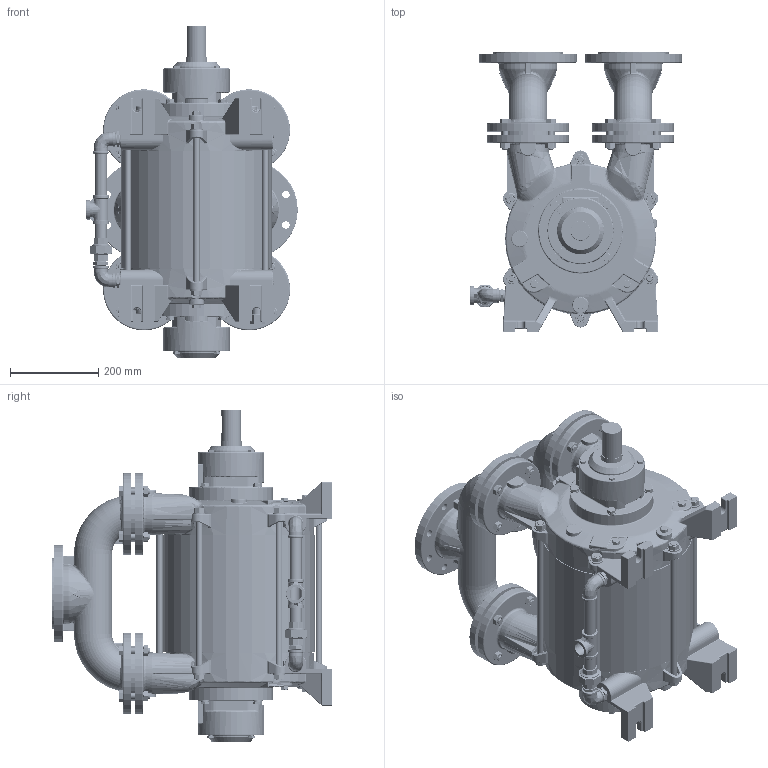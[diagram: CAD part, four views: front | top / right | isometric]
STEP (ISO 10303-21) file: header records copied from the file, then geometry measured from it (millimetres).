
FILE_DESCRIPTION (( 'STEP AP214' ), '1' );
FILE_NAME ('GMVT 275-260 MONTAJ.STEP', '2024-05-09T06:31:28', ( '' ), ( '' ), 'SwSTEP 2.0', 'SolidWorks 2024', '' );
FILE_SCHEMA (( 'AUTOMOTIVE_DESIGN' ));
Length unit declared in the file: millimetre
Products named in the file (1): GMVT 275-260 MONTAJ
Bounding box: 478.54 x 632 x 751 mm (x, y, z)
Volume: 54664116.5 mm3; surface area: 2639107.1 mm2
Topology: 54 solids, 86 shells, 5763 faces, 14002 edges, 8296 vertices
Faces by surface type: cylinder 1582, plane 1206, bspline 1129, cone 1002, torus 667, sphere 177
Entity records: 247999 total; most frequent: CARTESIAN_POINT 122154, ORIENTED_EDGE 27432, DIRECTION 24922, EDGE_CURVE 13716, AXIS2_PLACEMENT_3D 10559, VERTEX_POINT 8276, EDGE_LOOP 6136, CIRCLE 5924
